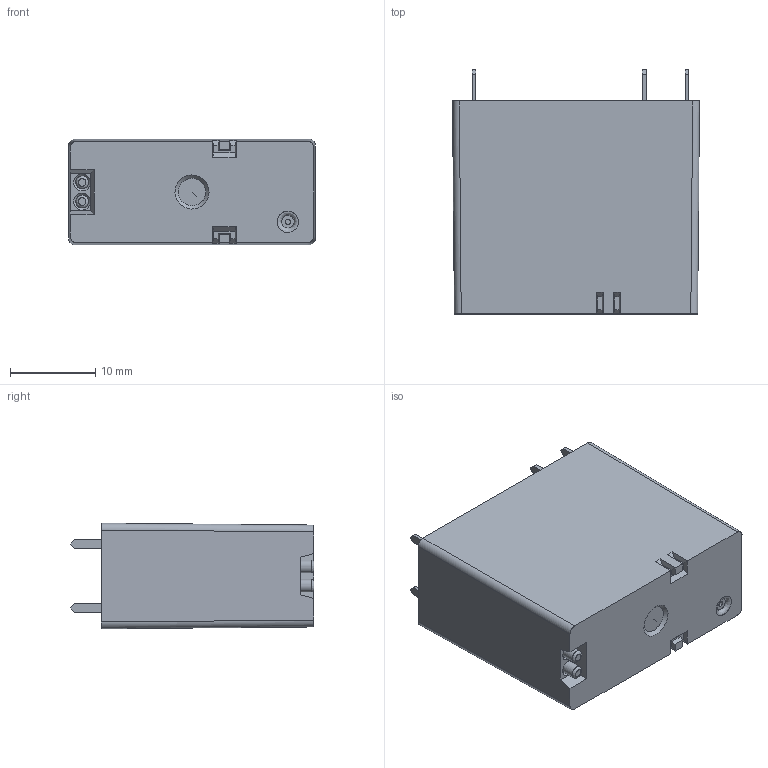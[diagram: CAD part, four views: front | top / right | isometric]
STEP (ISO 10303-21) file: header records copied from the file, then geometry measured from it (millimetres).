
FILE_DESCRIPTION(('STEP AP214'),'2;1');
FILE_NAME('40_61 o serie 42 complessivo 61 NO.stp','2011-08-30T15:24:56',(''),(''),'2007.1.106','THINKDESIGN','');
FILE_SCHEMA(('AUTOMOTIVE_DESIGN'));
Length unit declared in the file: millimetre
Products named in the file (1): None
Bounding box: 29 x 28.65 x 12.4 mm (x, y, z)
Surface area: 4593.7 mm2 (no closed solid volume)
Topology: 0 solids, 0 shells, 133 faces, 702 edges, 683 vertices
Faces by surface type: plane 102, bspline 24, cylinder 7
Full cylindrical faces by diameter (mm): 0.6 x1, 1.5 x2
Entity records: 7793 total; most frequent: CARTESIAN_POINT 2699, DIRECTION 814, COMPOSITE_CURVE_SEGMENT 701, VECTOR 584, LINE 584, TRIMMED_CURVE 584, OUTER_BOUNDARY_CURVE 133, CURVE_BOUNDED_SURFACE 133
